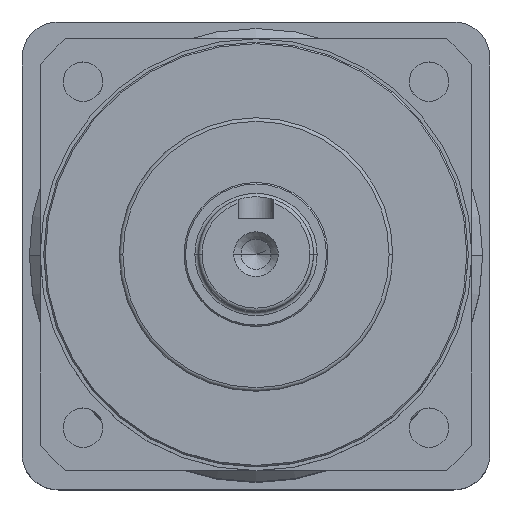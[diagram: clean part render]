
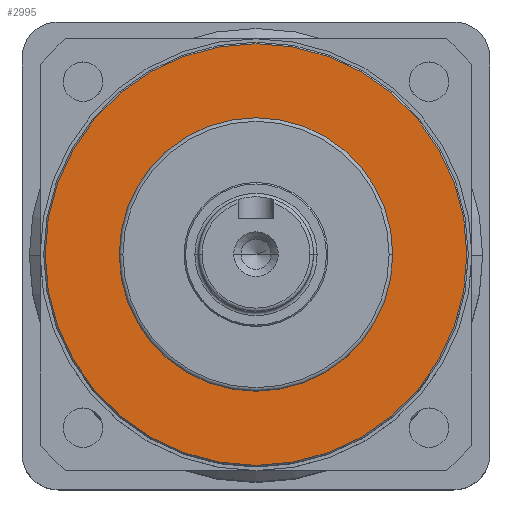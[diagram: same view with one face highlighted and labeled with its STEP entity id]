
A CAD part, top view. The second image highlights one B-rep face of the part: STEP entity #2995.
In plain terms, the highlighted planar face has unit normal (0, 0, 1).
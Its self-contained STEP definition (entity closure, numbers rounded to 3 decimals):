
#87 = DIRECTION ( 'NONE',  ( 1., 0., 0. ) ) ;
#229 = CARTESIAN_POINT ( 'NONE',  ( -29.3, 0., 24. ) ) ;
#320 = CIRCLE ( 'NONE', #2347, 29.3 ) ;
#330 = EDGE_CURVE ( 'NONE', #3418, #3561, #3452, .T. ) ;
#659 = AXIS2_PLACEMENT_3D ( 'NONE', #3524, #2948, #1791 ) ;
#738 = DIRECTION ( 'NONE',  ( 0., 0., 1. ) ) ;
#1012 = AXIS2_PLACEMENT_3D ( 'NONE', #1552, #738, #1312 ) ;
#1125 = DIRECTION ( 'NONE',  ( 0., 0., 1. ) ) ;
#1138 = DIRECTION ( 'NONE',  ( 0., 0., 1. ) ) ;
#1177 = CARTESIAN_POINT ( 'NONE',  ( 19., 0., 24. ) ) ;
#1221 = ORIENTED_EDGE ( 'NONE', *, *, #2180, .F. ) ;
#1258 = AXIS2_PLACEMENT_3D ( 'NONE', #1882, #1125, #1367 ) ;
#1261 = PLANE ( 'NONE',  #1012 ) ;
#1265 = CARTESIAN_POINT ( 'NONE',  ( 0., 0., 24. ) ) ;
#1312 = DIRECTION ( 'NONE',  ( 1., 0., 0. ) ) ;
#1367 = DIRECTION ( 'NONE',  ( 1., 0., 0. ) ) ;
#1391 = EDGE_LOOP ( 'NONE', ( #1540, #1221 ) ) ;
#1540 = ORIENTED_EDGE ( 'NONE', *, *, #3497, .F. ) ;
#1552 = CARTESIAN_POINT ( 'NONE',  ( 0., 0., 24. ) ) ;
#1791 = DIRECTION ( 'NONE',  ( 1., 0., 0. ) ) ;
#1812 = CARTESIAN_POINT ( 'NONE',  ( -19., 0., 24. ) ) ;
#1882 = CARTESIAN_POINT ( 'NONE',  ( 0., 0., 24. ) ) ;
#1898 = ORIENTED_EDGE ( 'NONE', *, *, #3759, .T. ) ;
#1965 = CIRCLE ( 'NONE', #1258, 19. ) ;
#2098 = EDGE_LOOP ( 'NONE', ( #3592, #1898 ) ) ;
#2180 = EDGE_CURVE ( 'NONE', #3177, #2415, #1965, .T. ) ;
#2347 = AXIS2_PLACEMENT_3D ( 'NONE', #2887, #1138, #3157 ) ;
#2415 = VERTEX_POINT ( 'NONE', #1812 ) ;
#2722 = DIRECTION ( 'NONE',  ( 0., 0., 1. ) ) ;
#2735 = CIRCLE ( 'NONE', #3208, 19. ) ;
#2829 = FACE_OUTER_BOUND ( 'NONE', #2098, .T. ) ;
#2887 = CARTESIAN_POINT ( 'NONE',  ( 0., 0., 24. ) ) ;
#2948 = DIRECTION ( 'NONE',  ( 0., 0., 1. ) ) ;
#2995 = ADVANCED_FACE ( 'NONE', ( #3634, #2829 ), #1261, .T. ) ;
#3157 = DIRECTION ( 'NONE',  ( 1., 0., 0. ) ) ;
#3177 = VERTEX_POINT ( 'NONE', #1177 ) ;
#3197 = CARTESIAN_POINT ( 'NONE',  ( 29.3, 0., 24. ) ) ;
#3208 = AXIS2_PLACEMENT_3D ( 'NONE', #1265, #2722, #87 ) ;
#3418 = VERTEX_POINT ( 'NONE', #229 ) ;
#3452 = CIRCLE ( 'NONE', #659, 29.3 ) ;
#3497 = EDGE_CURVE ( 'NONE', #2415, #3177, #2735, .T. ) ;
#3524 = CARTESIAN_POINT ( 'NONE',  ( 0., 0., 24. ) ) ;
#3561 = VERTEX_POINT ( 'NONE', #3197 ) ;
#3592 = ORIENTED_EDGE ( 'NONE', *, *, #330, .T. ) ;
#3634 = FACE_BOUND ( 'NONE', #1391, .T. ) ;
#3759 = EDGE_CURVE ( 'NONE', #3561, #3418, #320, .T. ) ;
